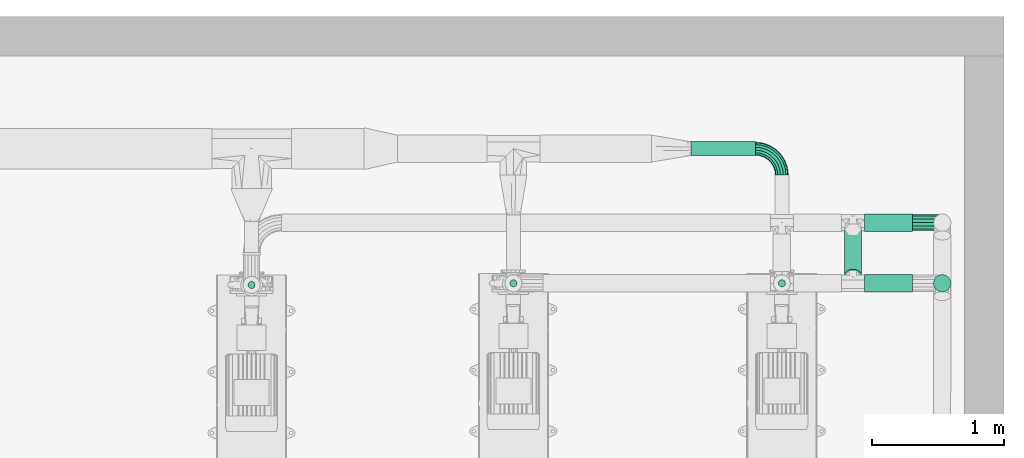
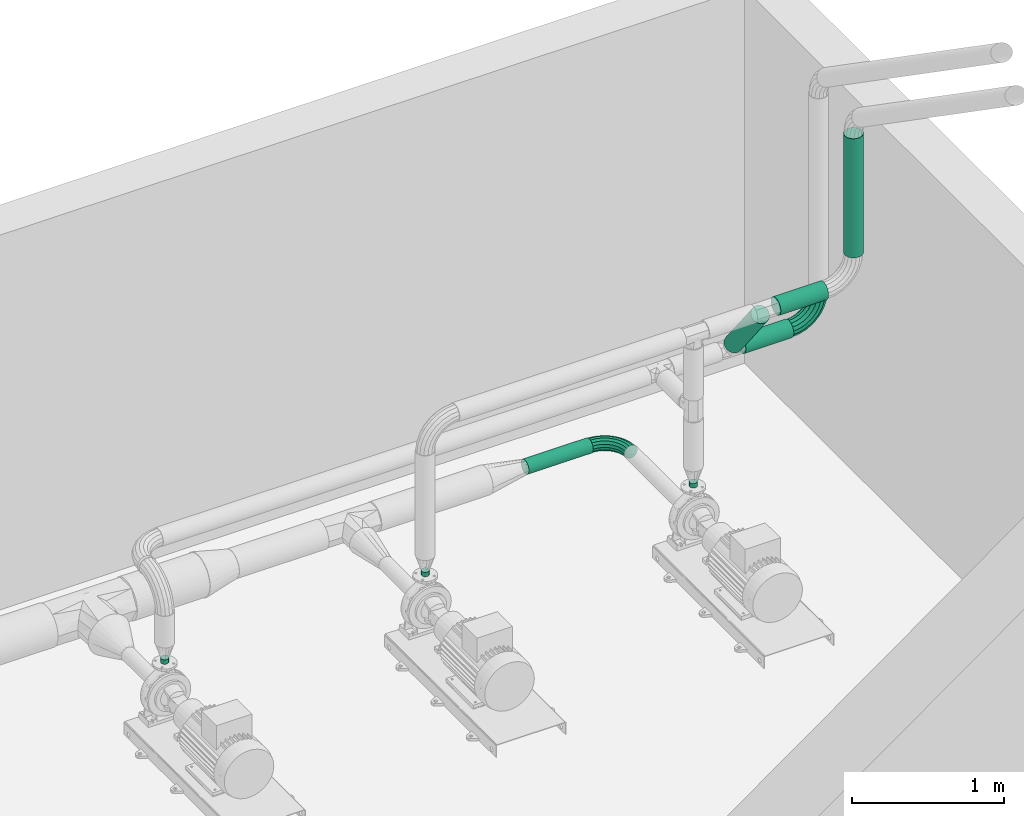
# One storey, part 7 of 12: 8 flow segments, 2 flow fittings.
"""IFC2X3 building model written with IfcOpenShell, lengths in millimetres."""

from ifc_helpers import new_model, entity, si_unit, converted_unit, direction, frame, frame_2d, origin, origin_2d_with_axis, place, context, subcontext, project, spatial, circle, extrude, faceted_brep, source, transform, mapped, material, type_object, type_shapes, element, save


model = new_model("IFC2X3")

# Units and contexts
model_context = context("Model", 3, precision=0.01, world=origin(), true_north=direction((6.123031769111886e-17, 1.0)))
body_context = subcontext(model_context, "Body", "Model", "MODEL_VIEW")
ifc_project = project(units=[si_unit("LENGTHUNIT", "METRE", prefix="MILLI"), converted_unit("PLANEANGLEUNIT", "DEGREE", entity("IfcPlaneAngleMeasure", 0.017453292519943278), si_unit("PLANEANGLEUNIT", "RADIAN"), dimensions=[0, 0, 0, 0, 0, 0, 0]), si_unit("AREAUNIT", "SQUARE_METRE")], contexts=[model_context])

# Site, building, storey
site_placement = place(None, frame((7776.576483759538, 118.3519876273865, 0.0)))
site = spatial("IfcSite", under=ifc_project, at=site_placement, Name="Default", CompositionType="ELEMENT")
building_placement = place(site_placement, origin())
building = spatial("IfcBuilding", under=site, at=building_placement, Name="Bygning (endres i Project Information)", CompositionType="ELEMENT")
storey_placement = place(building_placement, frame((0.0, 0.0, 11000.0)))
storey = spatial("IfcBuildingStorey", under=building, at=storey_placement, Name="Plan U2 - Arbeid", CompositionType="ELEMENT", Elevation=10999.999999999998)

# Flow segments
ifc_material = material(Name="SS 2343 Rustfritt stål, prosessrør, generisk")
pipe_segment_type = type_object("IfcPipeSegmentType", Name="Pipe Types:AISI 304L Rustfritt", PredefinedType="NOTDEFINED", material=ifc_material)
flow_segment_1_placement = place(storey_placement, origin())
element("IfcFlowSegment", 1, at=flow_segment_1_placement, inside=storey, type_object=pipe_segment_type, Name="Pipe Types:AISI 304L Rustfritt", ObjectType="Pipe Types:AISI 304L Rustfritt", context=body_context, shape_type="SweptSolid", body=[
    extrude(circle(Radius=53.0, at=frame_2d((8.662937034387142e-12, 0.0), x_axis=(1.0, 0.0))), frame((29907.308897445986, 33597.80166209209, 320.2091490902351), z_axis=(1.0, 0.0, 0.0), x_axis=(0.0, 1.0, 0.0)), (0.0, 0.0, 1.0), 486.692477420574),
])
flow_segment_2_placement = place(storey_placement, origin())
element("IfcFlowSegment", 2, at=flow_segment_2_placement, inside=storey, type_object=pipe_segment_type, Name="Pipe Types:AISI 304L Rustfritt", ObjectType="Pipe Types:AISI 304L Rustfritt", context=body_context, shape_type="SweptSolid", body=[
    extrude(circle(Radius=27.0, at=origin_2d_with_axis()), frame((28564.001374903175, 32579.634050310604, 545.2101242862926), z_axis=(0.0, 0.0, 1.0), x_axis=(-1.0, 0.0, 0.0)), (0.0, 0.0, 1.0), 36.19699241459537),
])
flow_segment_3_placement = place(storey_placement, origin())
element("IfcFlowSegment", 3, at=flow_segment_3_placement, inside=storey, type_object=pipe_segment_type, Name="Pipe Types:AISI 304L Rustfritt", ObjectType="Pipe Types:AISI 304L Rustfritt", context=body_context, shape_type="SweptSolid", body=[
    extrude(circle(Radius=27.0, at=origin_2d_with_axis()), frame((26583.99325772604, 32567.112224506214, 545.2028125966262), z_axis=(-0.00014291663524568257, -1.1369877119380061e-05, 0.9999999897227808), x_axis=(-0.9999999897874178, 0.0, -0.00014291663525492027)), (0.0, 0.0, 1.0), 36.20515069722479),
])
flow_segment_4_placement = place(storey_placement, origin())
element("IfcFlowSegment", 4, at=flow_segment_4_placement, inside=storey, type_object=pipe_segment_type, Name="Pipe Types:AISI 304L Rustfritt", ObjectType="Pipe Types:AISI 304L Rustfritt", context=body_context, shape_type="SweptSolid", body=[
    extrude(circle(Radius=65.5, at=origin_2d_with_axis()), frame((31806.82666066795, 32579.648882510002, 1989.5741663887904)), (0.0, 0.0, 1.0), 953.8084841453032),
])
flow_segment_5_placement = place(storey_placement, origin())
element("IfcFlowSegment", 5, at=flow_segment_5_placement, inside=storey, type_object=pipe_segment_type, Name="Pipe Types:AISI 304L Rustfritt", ObjectType="Pipe Types:AISI 304L Rustfritt", context=body_context, shape_type="SweptSolid", body=[
    extrude(circle(Radius=27.0, at=frame_2d((-4.331468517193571e-12, 0.0), x_axis=(1.0, 0.0))), frame((30594.001374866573, 32579.640163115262, 545.2101242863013)), (0.0, 0.0, 1.0), 36.196992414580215),
])
flow_segment_6_placement = place(storey_placement, origin())
element("IfcFlowSegment", 6, at=flow_segment_6_placement, inside=storey, type_object=pipe_segment_type, Name="Pipe Types:AISI 304L Rustfritt", ObjectType="Pipe Types:AISI 304L Rustfritt", context=body_context, shape_type="SweptSolid", body=[
    extrude(circle(Radius=65.5, at=frame_2d((4.331468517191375e-12, 4.3906945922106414e-24), x_axis=(1.0, 0.0))), frame((31219.474188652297, 33038.4643352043, 1180.696656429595), z_axis=(1.0, -1.0068135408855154e-06, 1.0068134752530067e-06), x_axis=(-1.0068135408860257e-06, -1.0, 0.0)), (0.0, 0.0, 1.0), 362.9767832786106),
])
flow_segment_7_placement = place(storey_placement, origin())
element("IfcFlowSegment", 7, at=flow_segment_7_placement, inside=storey, type_object=pipe_segment_type, Name="Pipe Types:AISI 304L Rustfritt", ObjectType="Pipe Types:AISI 304L Rustfritt", context=body_context, shape_type="SweptSolid", body=[
    extrude(circle(Radius=65.5, at=frame_2d((-4.331468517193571e-12, 0.0), x_axis=(1.0, 0.0))), frame((31131.911564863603, 32984.36194992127, 1249.5451649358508), z_axis=(0.0, -0.6178751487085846, 0.7862762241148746), x_axis=(1.0, 0.0, 0.0)), (0.0, 0.0, 1.0), 567.4479427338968),
])
flow_segment_8_placement = place(storey_placement, origin())
element("IfcFlowSegment", 8, at=flow_segment_8_placement, inside=storey, type_object=pipe_segment_type, Name="Pipe Types:AISI 304L Rustfritt", ObjectType="Pipe Types:AISI 304L Rustfritt", context=body_context, shape_type="SweptSolid", body=[
    extrude(circle(Radius=65.5, at=origin_2d_with_axis()), frame((31219.47416446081, 32579.64766320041, 1764.5645713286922), z_axis=(1.0, 1.8409031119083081e-06, 0.0), x_axis=(1.8409031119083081e-06, -1.0, 0.0)), (0.0, 0.0, 1.0), 362.3524744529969),
])

# Flow fittings
pipe_fitting_type_1 = type_object("IfcPipeFittingType", Name="VA_prosess_rustfritt_bend_D+100:VA_prosess_rustfritt_bend_D+100", PredefinedType="NOTDEFINED", material=ifc_material)
shared_shape_1 = source(origin(), body_context, "Body", "Brep", [
    faceted_brep([(-144.36976651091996, -43.73197804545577, 0.0), (-145.47159151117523, -38.904567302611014, 21.694186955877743), (-200.0, -45.04844339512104, 21.694186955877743), (-200.0, -50.0, 0.0), (-148.5588365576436, -25.37846297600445, 39.09157412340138), (-200.0, -31.17449009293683, 39.09157412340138), (-153.02003490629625, -5.83267591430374, 48.74639560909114), (-200.0, -11.126046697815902, 48.74639560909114), (-157.97159151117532, 15.861511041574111, 48.74639560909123), (-200.0, 11.126046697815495, 48.74639560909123), (-162.43278985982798, 35.40729810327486, 39.091574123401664), (-200.0, 31.17449009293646, 39.091574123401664), (-165.5200349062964, 48.93340242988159, 21.694186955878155), (-200.0, 45.04844339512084, 21.694186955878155), (-166.6218599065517, 53.760813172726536, 0.0), (-200.0, 50.0, 0.0), (-165.52003490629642, 48.9334024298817, -21.694186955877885), (-200.0, 45.04844339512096, -21.694186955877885), (-162.43278985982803, 35.4072981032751, -39.09157412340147), (-200.0, 31.174490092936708, -39.09157412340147), (-157.97159151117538, 15.861511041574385, -48.746395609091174), (-200.0, 11.126046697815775, -48.746395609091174), (-153.0200349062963, -5.832675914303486, -48.7463956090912), (-200.0, -11.12604669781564, -48.7463956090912), (-148.55883655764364, -25.37846297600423, -39.09157412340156), (-200.0, -31.1744900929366, -39.09157412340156), (-145.47159151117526, -38.90456730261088, -21.694186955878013), (-200.0, -45.048443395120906, -21.694186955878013), (-91.52906522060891, -25.242216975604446, 0.0), (-93.67746511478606, -20.781018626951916, 21.694186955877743), (-99.69714784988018, -8.281018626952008, 39.09157412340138), (-108.39584143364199, 9.782004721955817, 48.74639560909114), (-118.05066291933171, 29.83044811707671, 48.74639560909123), (-126.74935650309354, 47.89347146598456, 39.091574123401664), (-132.76903923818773, 60.39347146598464, 21.694186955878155), (-134.917439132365, 64.85466981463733, 0.0), (-132.7690392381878, 60.393471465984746, -21.694186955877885), (-126.74935650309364, 47.89347146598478, -39.09157412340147), (-118.05066291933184, 29.830448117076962, -48.746395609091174), (-108.3958414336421, 9.782004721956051, -48.7463956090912), (-99.69714784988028, -8.281018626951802, -39.09157412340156), (-93.67746511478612, -20.781018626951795, -21.694186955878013), (-44.12754953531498, 4.542129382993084, 0.0), (-47.21479458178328, 8.41341222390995, 21.694186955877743), (-55.86506297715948, 19.26050570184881, 39.09157412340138), (-68.36506297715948, 34.935009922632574, 48.74639560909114), (-82.23901627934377, 52.33239709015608, 48.74639560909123), (-94.73901627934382, 68.00690131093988, 39.091574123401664), (-103.38928467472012, 78.85399478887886, 21.694186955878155), (-106.47652972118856, 82.72527762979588, 0.0), (-103.3892846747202, 78.85399478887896, -21.694186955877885), (-94.73901627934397, 68.00690131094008, -39.09157412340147), (-82.23901627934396, 52.332397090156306, -48.746395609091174), (-68.36506297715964, 34.93500992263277, -48.7463956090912), (-55.865062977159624, 19.260505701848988, -39.09157412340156), (-47.214794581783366, 8.413412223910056, -21.694186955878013), (-4.542129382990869, 44.12754953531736, 0.0), (-8.413412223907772, 47.214794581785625, 21.694186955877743), (-19.260505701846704, 55.86506297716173, 39.09157412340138), (-34.93500992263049, 68.3650629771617, 48.74639560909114), (-52.33239709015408, 82.2390162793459, 48.74639560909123), (-68.00690131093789, 94.73901627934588, 39.091574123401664), (-78.85399478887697, 103.3892846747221, 21.694186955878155), (-82.72527762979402, 106.47652972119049, 0.0), (-78.85399478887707, 103.38928467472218, -21.694186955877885), (-68.00690131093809, 94.73901627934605, -39.09157412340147), (-52.3323970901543, 82.23901627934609, -48.746395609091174), (-34.9350099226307, 68.36506297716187, -48.7463956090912), (-19.26050570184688, 55.86506297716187, -39.09157412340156), (-8.413412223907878, 47.21479458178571, -21.694186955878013), (25.242216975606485, 91.52906522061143, 0.0), (20.781018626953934, 93.67746511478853, 21.694186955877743), (8.28101862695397, 99.69714784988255, 39.09157412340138), (-9.782004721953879, 108.3958414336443, 48.74639560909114), (-29.830448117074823, 118.05066291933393, 48.74639560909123), (-47.89347146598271, 126.7493565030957, 39.091574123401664), (-60.39347146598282, 132.7690392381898, 21.694186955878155), (-64.85466981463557, 134.91743913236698, 0.0), (-60.393471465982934, 132.76903923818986, -21.694186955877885), (-47.893471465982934, 126.74935650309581, -39.09157412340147), (-29.830448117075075, 118.05066291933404, -48.746395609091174), (-9.782004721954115, 108.39584143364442, -48.7463956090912), (8.281018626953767, 99.69714784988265, -39.09157412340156), (20.781018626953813, 93.67746511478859, -21.694186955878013), (43.73197804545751, 144.36976651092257, 0.0), (38.90456730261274, 145.47159151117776, 21.694186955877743), (25.378462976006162, 148.55883655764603, 39.09157412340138), (5.832675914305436, 153.0200349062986, 48.74639560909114), (-15.861511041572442, 157.97159151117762, 48.74639560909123), (-35.4072981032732, 162.4327898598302, 39.091574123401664), (-48.933402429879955, 165.52003490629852, 21.694186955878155), (-53.760813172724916, 166.62185990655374, 0.0), (-48.93340242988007, 165.52003490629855, -21.694186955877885), (-35.40729810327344, 162.43278985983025, -39.09157412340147), (-15.861511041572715, 157.97159151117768, -48.746395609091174), (5.832675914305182, 153.0200349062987, -48.7463956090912), (25.37846297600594, 148.5588365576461, -39.09157412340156), (38.90456730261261, 145.4715915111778, -21.694186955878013), (50.0, 200.0, 0.0), (45.04844339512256, 200.0, 21.694186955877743), (31.174490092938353, 200.0, 39.09157412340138), (11.126046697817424, 200.0, 48.74639560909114), (-11.126046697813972, 200.0, 48.74639560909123), (-31.174490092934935, 200.0, 39.091574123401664), (-45.04844339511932, 200.0, 21.694186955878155), (-50.0, 200.0, 0.0), (-45.04844339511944, 200.0, -21.694186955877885), (-31.174490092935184, 200.0, -39.09157412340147), (-11.126046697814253, 200.0, -48.746395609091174), (11.126046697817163, 200.0, -48.7463956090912), (31.174490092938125, 200.0, -39.09157412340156), (45.048443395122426, 200.0, -21.694186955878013)], [[[0, 1, 2, 3]], [[1, 4, 5, 2]], [[4, 6, 7, 5]], [[6, 8, 9, 7]], [[8, 10, 11, 9]], [[10, 12, 13, 11]], [[12, 14, 15, 13]], [[14, 16, 17, 15]], [[16, 18, 19, 17]], [[18, 20, 21, 19]], [[20, 22, 23, 21]], [[22, 24, 25, 23]], [[24, 26, 27, 25]], [[26, 0, 3, 27]], [[28, 29, 1, 0]], [[29, 30, 4, 1]], [[30, 31, 6, 4]], [[31, 32, 8, 6]], [[32, 33, 10, 8]], [[33, 34, 12, 10]], [[34, 35, 14, 12]], [[35, 36, 16, 14]], [[36, 37, 18, 16]], [[37, 38, 20, 18]], [[38, 39, 22, 20]], [[39, 40, 24, 22]], [[40, 41, 26, 24]], [[41, 28, 0, 26]], [[42, 43, 29, 28]], [[43, 44, 30, 29]], [[44, 45, 31, 30]], [[45, 46, 32, 31]], [[46, 47, 33, 32]], [[47, 48, 34, 33]], [[48, 49, 35, 34]], [[49, 50, 36, 35]], [[50, 51, 37, 36]], [[51, 52, 38, 37]], [[52, 53, 39, 38]], [[53, 54, 40, 39]], [[54, 55, 41, 40]], [[55, 42, 28, 41]], [[56, 57, 43, 42]], [[57, 58, 44, 43]], [[58, 59, 45, 44]], [[59, 60, 46, 45]], [[60, 61, 47, 46]], [[61, 62, 48, 47]], [[62, 63, 49, 48]], [[63, 64, 50, 49]], [[64, 65, 51, 50]], [[65, 66, 52, 51]], [[66, 67, 53, 52]], [[67, 68, 54, 53]], [[68, 69, 55, 54]], [[69, 56, 42, 55]], [[70, 71, 57, 56]], [[71, 72, 58, 57]], [[72, 73, 59, 58]], [[73, 74, 60, 59]], [[74, 75, 61, 60]], [[75, 76, 62, 61]], [[76, 77, 63, 62]], [[77, 78, 64, 63]], [[78, 79, 65, 64]], [[79, 80, 66, 65]], [[80, 81, 67, 66]], [[81, 82, 68, 67]], [[82, 83, 69, 68]], [[83, 70, 56, 69]], [[84, 85, 71, 70]], [[85, 86, 72, 71]], [[86, 87, 73, 72]], [[87, 88, 74, 73]], [[88, 89, 75, 74]], [[89, 90, 76, 75]], [[90, 91, 77, 76]], [[91, 92, 78, 77]], [[92, 93, 79, 78]], [[93, 94, 80, 79]], [[94, 95, 81, 80]], [[95, 96, 82, 81]], [[96, 97, 83, 82]], [[97, 84, 70, 83]], [[98, 99, 85, 84]], [[99, 100, 86, 85]], [[100, 101, 87, 86]], [[101, 102, 88, 87]], [[102, 103, 89, 88]], [[103, 104, 90, 89]], [[104, 105, 91, 90]], [[105, 106, 92, 91]], [[106, 107, 93, 92]], [[107, 108, 94, 93]], [[108, 109, 95, 94]], [[109, 110, 96, 95]], [[110, 111, 97, 96]], [[111, 98, 84, 97]], [[3, 2, 5, 7, 9, 11, 13, 15, 17, 19, 21, 23, 25, 27]], [[111, 110, 109, 108, 107, 106, 105, 104, 103, 102, 101, 100, 99, 98]]]),
])
type_shapes(pipe_fitting_type_1, [shared_shape_1])
flow_fitting_1_placement = place(storey_placement, frame((30594.001374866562, 33597.801662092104, 320.2091490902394), z_axis=(0.0, 0.0, 1.0), x_axis=(0.0, 1.0, 0.0)))
element("IfcFlowFitting", 9, at=flow_fitting_1_placement, inside=storey, type_object=pipe_fitting_type_1, material=ifc_material, Name="VA_prosess_rustfritt_bend_D+100:VA_prosess_rustfritt_bend_D+100", ObjectType="VA_prosess_rustfritt_bend_D+100:VA_prosess_rustfritt_bend_D+100", context=body_context, shape_type="MappedRepresentation", body=[
    mapped(shared_shape_1, transform((0.0, 0.0, 0.0), scale=1.0)),
])
pipe_fitting_type_2 = type_object("IfcPipeFittingType", Name="VA_prosess_rustfritt_bend_D+100:VA_prosess_rustfritt_bend_D+100", PredefinedType="NOTDEFINED", material=ifc_material)
shared_shape_2 = source(origin(), body_context, "Body", "Brep", [
    faceted_brep([(-161.02523148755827, -55.291774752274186, 0.0), (-162.4025127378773, -49.25751132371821, 27.117733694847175), (-225.0, -56.310554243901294, 27.117733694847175), (-225.0, -62.50000000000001, 0.0), (-166.26156904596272, -32.34988091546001, 48.86446765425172), (-225.0, -38.968112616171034, 48.86446765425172), (-171.83806698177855, -7.917647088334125, 60.93299451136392), (-225.0, -13.907558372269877, 60.93299451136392), (-178.0275127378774, 19.20008660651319, 60.93299451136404), (-225.0, 13.90755837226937, 60.93299451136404), (-183.60401067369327, 43.632320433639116, 48.86446765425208), (-225.0, 38.96811261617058, 48.86446765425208), (-187.46306698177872, 60.53995084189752, 27.117733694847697), (-225.0, 56.31055424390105, 27.117733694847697), (-188.8403482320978, 66.57421427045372, 0.0), (-225.0, 62.50000000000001, 0.0), (-187.46306698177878, 60.53995084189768, -27.117733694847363), (-225.0, 56.31055424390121, -27.117733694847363), (-183.60401067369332, 43.63232043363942, -48.86446765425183), (-225.0, 38.96811261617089, -48.86446765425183), (-178.0275127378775, 19.20008660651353, -60.932994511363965), (-225.0, 13.90755837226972, -60.932994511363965), (-171.8380669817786, -7.917647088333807, -60.932994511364), (-225.0, -13.907558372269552, -60.932994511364), (-166.26156904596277, -32.34988091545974, -48.864467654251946), (-225.0, -38.96811261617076, -48.864467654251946), (-162.40251273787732, -49.25751132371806, -27.11773369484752), (-225.0, -56.31055424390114, -27.11773369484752), (-100.25842500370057, -34.028549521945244, 0.0), (-102.94392487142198, -28.452051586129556, 27.117733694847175), (-110.46852829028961, -12.82705158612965, 48.86446765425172), (-121.34189526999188, 9.751727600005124, 60.93299451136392), (-133.41042212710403, 34.812281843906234, 60.93299451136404), (-144.28378910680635, 57.39106103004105, 48.86446765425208), (-151.80839252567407, 73.01606103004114, 27.117733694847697), (-154.49389239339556, 78.59255896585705, 0.0), (-151.80839252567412, 73.01606103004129, -27.117733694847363), (-144.28378910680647, 57.391061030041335, -48.86446765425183), (-133.4104221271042, 34.812281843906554, -60.932994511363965), (-121.34189526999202, 9.751727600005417, -60.932994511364), (-110.46852829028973, -12.827051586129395, -48.864467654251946), (-102.94392487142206, -28.452051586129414, -27.11773369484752), (-45.74668196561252, 0.22344879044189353, 0.0), (-49.60573827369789, 5.06255234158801, 27.117733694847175), (-60.4185737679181, 18.621419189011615, 48.86446765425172), (-76.04357376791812, 38.2145494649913, 60.93299451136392), (-93.3860153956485, 59.96128342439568, 60.93299451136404), (-109.01101539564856, 79.5544137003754, 48.86446765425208), (-119.8238508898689, 93.11328054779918, 27.117733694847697), (-123.68290719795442, 97.95238409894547, 0.0), (-119.82385088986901, 93.11328054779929, -27.117733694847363), (-109.01101539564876, 79.55441370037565, -48.86446765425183), (-93.38601539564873, 59.96128342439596, -60.932994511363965), (-76.04357376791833, 38.214549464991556, -60.932994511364), (-60.418573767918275, 18.62141918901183, -48.864467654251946), (-49.60573827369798, 5.06255234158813, -27.11773369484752), (-0.22344879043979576, 45.7466819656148, 0.0), (-5.062552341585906, 49.60573827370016, 27.117733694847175), (-18.621419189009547, 60.41857376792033, 48.86446765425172), (-38.2145494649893, 76.04357376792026, 60.93299451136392), (-59.96128342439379, 93.38601539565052, 60.93299451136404), (-79.55441370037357, 109.01101539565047, 48.86446765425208), (-93.11328054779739, 119.82385088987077, 27.117733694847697), (-97.9523840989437, 123.6829071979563, 0.0), (-93.1132805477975, 119.82385088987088, -27.117733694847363), (-79.55441370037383, 109.01101539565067, -48.86446765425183), (-59.96128342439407, 93.38601539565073, -60.932994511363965), (-38.21454946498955, 76.04357376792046, -60.932994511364), (-18.621419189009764, 60.418573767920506, -48.864467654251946), (-5.062552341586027, 49.60573827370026, -27.11773369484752), (34.02854952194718, 100.25842500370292, 0.0), (28.452051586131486, 102.94392487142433, 27.117733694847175), (12.827051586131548, 110.4685282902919, 48.86446765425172), (-9.751727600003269, 121.34189526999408, 60.93299451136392), (-34.81228184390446, 133.4104221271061, 60.93299451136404), (-57.39106103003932, 144.28378910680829, 48.86446765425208), (-73.01606103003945, 151.80839252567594, 27.117733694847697), (-78.59255896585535, 154.4938923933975, 0.0), (-73.0160610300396, 151.80839252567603, -27.117733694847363), (-57.3910610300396, 144.28378910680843, -48.86446765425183), (-34.81228184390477, 133.41042212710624, -60.932994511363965), (-9.751727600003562, 121.34189526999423, -60.932994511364), (12.827051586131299, 110.46852829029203, -48.864467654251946), (28.452051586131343, 102.9439248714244, -27.11773369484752), (55.29177475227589, 161.0252314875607, 0.0), (49.257511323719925, 162.40251273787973, 27.117733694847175), (32.34988091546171, 166.2615690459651, 48.86446765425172), (7.917647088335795, 171.8380669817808, 60.93299451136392), (-19.200086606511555, 178.02751273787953, 60.93299451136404), (-43.63232043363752, 183.60401067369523, 48.86446765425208), (-60.539950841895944, 187.46306698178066, 27.117733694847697), (-66.57421427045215, 188.84034823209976, 0.0), (-60.53995084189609, 187.46306698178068, -27.117733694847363), (-43.63232043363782, 183.6040106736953, -48.86446765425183), (-19.2000866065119, 178.02751273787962, -60.932994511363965), (7.917647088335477, 171.83806698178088, -60.932994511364), (32.34988091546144, 166.26156904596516, -48.864467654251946), (49.257511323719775, 162.40251273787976, -27.11773369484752), (62.500000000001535, 225.0, 0.0), (56.31055424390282, 225.0, 27.117733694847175), (38.96811261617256, 225.0, 48.86446765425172), (13.9075583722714, 225.0, 60.93299451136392), (-13.907558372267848, 225.0, 60.93299451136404), (-38.96811261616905, 225.0, 48.86446765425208), (-56.310554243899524, 225.0, 27.117733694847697), (-62.49999999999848, 225.0, 0.0), (-56.31055424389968, 225.0, -27.117733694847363), (-38.968112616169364, 225.0, -48.86446765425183), (-13.907558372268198, 225.0, -60.932994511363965), (13.907558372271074, 225.0, -60.932994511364), (38.968112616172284, 225.0, -48.864467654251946), (56.310554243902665, 225.0, -27.11773369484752)], [[[0, 1, 2, 3]], [[1, 4, 5, 2]], [[4, 6, 7, 5]], [[6, 8, 9, 7]], [[8, 10, 11, 9]], [[10, 12, 13, 11]], [[12, 14, 15, 13]], [[14, 16, 17, 15]], [[16, 18, 19, 17]], [[18, 20, 21, 19]], [[20, 22, 23, 21]], [[22, 24, 25, 23]], [[24, 26, 27, 25]], [[26, 0, 3, 27]], [[28, 29, 1, 0]], [[29, 30, 4, 1]], [[30, 31, 6, 4]], [[31, 32, 8, 6]], [[32, 33, 10, 8]], [[33, 34, 12, 10]], [[34, 35, 14, 12]], [[35, 36, 16, 14]], [[36, 37, 18, 16]], [[37, 38, 20, 18]], [[38, 39, 22, 20]], [[39, 40, 24, 22]], [[40, 41, 26, 24]], [[41, 28, 0, 26]], [[42, 43, 29, 28]], [[43, 44, 30, 29]], [[44, 45, 31, 30]], [[45, 46, 32, 31]], [[46, 47, 33, 32]], [[47, 48, 34, 33]], [[48, 49, 35, 34]], [[49, 50, 36, 35]], [[50, 51, 37, 36]], [[51, 52, 38, 37]], [[52, 53, 39, 38]], [[53, 54, 40, 39]], [[54, 55, 41, 40]], [[55, 42, 28, 41]], [[56, 57, 43, 42]], [[57, 58, 44, 43]], [[58, 59, 45, 44]], [[59, 60, 46, 45]], [[60, 61, 47, 46]], [[61, 62, 48, 47]], [[62, 63, 49, 48]], [[63, 64, 50, 49]], [[64, 65, 51, 50]], [[65, 66, 52, 51]], [[66, 67, 53, 52]], [[67, 68, 54, 53]], [[68, 69, 55, 54]], [[69, 56, 42, 55]], [[70, 71, 57, 56]], [[71, 72, 58, 57]], [[72, 73, 59, 58]], [[73, 74, 60, 59]], [[74, 75, 61, 60]], [[75, 76, 62, 61]], [[76, 77, 63, 62]], [[77, 78, 64, 63]], [[78, 79, 65, 64]], [[79, 80, 66, 65]], [[80, 81, 67, 66]], [[81, 82, 68, 67]], [[82, 83, 69, 68]], [[83, 70, 56, 69]], [[84, 85, 71, 70]], [[85, 86, 72, 71]], [[86, 87, 73, 72]], [[87, 88, 74, 73]], [[88, 89, 75, 74]], [[89, 90, 76, 75]], [[90, 91, 77, 76]], [[91, 92, 78, 77]], [[92, 93, 79, 78]], [[93, 94, 80, 79]], [[94, 95, 81, 80]], [[95, 96, 82, 81]], [[96, 97, 83, 82]], [[97, 84, 70, 83]], [[98, 99, 85, 84]], [[99, 100, 86, 85]], [[100, 101, 87, 86]], [[101, 102, 88, 87]], [[102, 103, 89, 88]], [[103, 104, 90, 89]], [[104, 105, 91, 90]], [[105, 106, 92, 91]], [[106, 107, 93, 92]], [[107, 108, 94, 93]], [[108, 109, 95, 94]], [[109, 110, 96, 95]], [[110, 111, 97, 96]], [[111, 98, 84, 97]], [[3, 2, 5, 7, 9, 11, 13, 15, 17, 19, 21, 23, 25, 27]], [[111, 110, 109, 108, 107, 106, 105, 104, 103, 102, 101, 100, 99, 98]]]),
])
type_shapes(pipe_fitting_type_2, [shared_shape_2])
flow_fitting_2_placement = place(storey_placement, frame((31807.45097193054, 33038.46396975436, 1180.6970218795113), z_axis=(0.0, -1.0, 1.628994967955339e-05), x_axis=(1.0, 0.0, 0.0)))
element("IfcFlowFitting", 10, at=flow_fitting_2_placement, inside=storey, type_object=pipe_fitting_type_2, material=ifc_material, Name="VA_prosess_rustfritt_bend_D+100:VA_prosess_rustfritt_bend_D+100", ObjectType="VA_prosess_rustfritt_bend_D+100:VA_prosess_rustfritt_bend_D+100", context=body_context, shape_type="MappedRepresentation", body=[
    mapped(shared_shape_2, transform((0.0, 0.0, 0.0), scale=1.0)),
])

save(model, "model.ifc")
